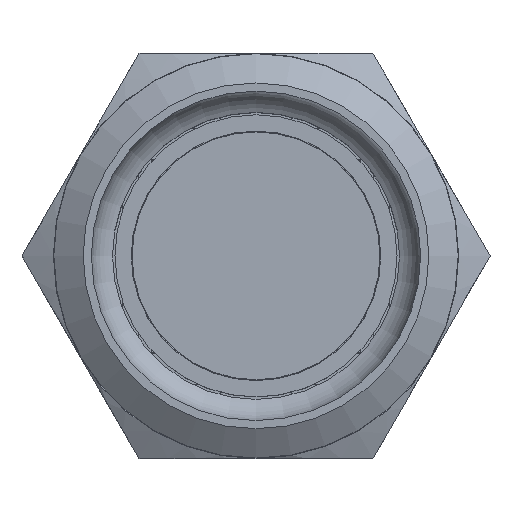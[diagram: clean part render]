
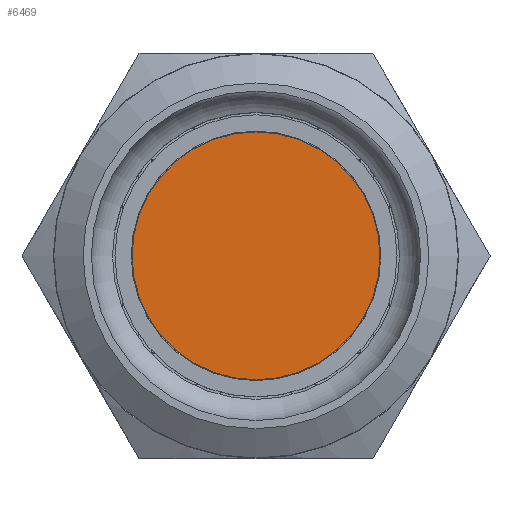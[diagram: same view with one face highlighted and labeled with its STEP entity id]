
A CAD part, top view. The second image highlights one B-rep face of the part: STEP entity #6469.
In plain terms, the highlighted planar face has unit normal (0, 0, 1).
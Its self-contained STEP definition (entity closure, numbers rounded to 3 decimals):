
#5149=PLANE('',#17483);
#5686=FACE_OUTER_BOUND('',#7576,.T.);
#6469=ADVANCED_FACE('',(#5686),#5149,.T.);
#7576=EDGE_LOOP('',(#8475));
#8475=ORIENTED_EDGE('',*,*,#14709,.T.);
#13148=VERTEX_POINT('',#22996);
#14709=EDGE_CURVE('',#13148,#13148,#17046,.T.);
#17046=CIRCLE('',#17481,7.6);
#17481=AXIS2_PLACEMENT_3D('',#22995,#18741,#18742);
#17483=AXIS2_PLACEMENT_3D('',#22998,#18745,#18746);
#18741=DIRECTION('',(0.,0.,1.));
#18742=DIRECTION('',(1.,0.,0.));
#18745=DIRECTION('',(0.,0.,1.));
#18746=DIRECTION('',(1.,0.,0.));
#22995=CARTESIAN_POINT('',(-1.739,0.1,26.4));
#22996=CARTESIAN_POINT('',(5.861,0.1,26.4));
#22998=CARTESIAN_POINT('',(-1.739,0.1,26.4));
